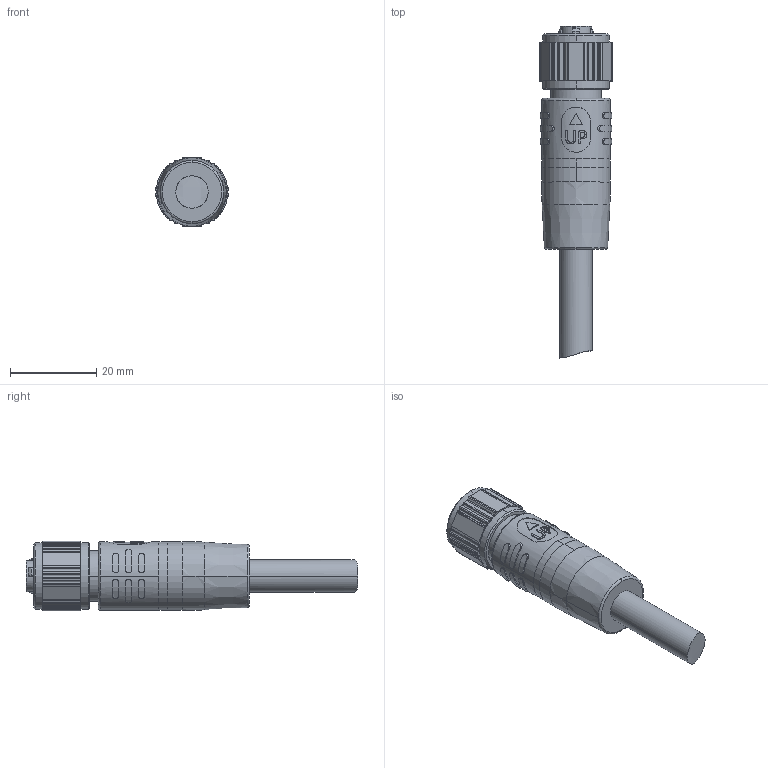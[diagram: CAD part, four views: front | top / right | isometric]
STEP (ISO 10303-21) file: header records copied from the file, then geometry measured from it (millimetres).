
FILE_DESCRIPTION((''),'2;1');
FILE_NAME('PRT0001_1_1','2023-05-29T19:01:28',('MilletLi'),(''),'CREO PARAMETRIC BY PTC INC, 2019352','CREO PARAMETRIC BY PTC INC, 2019352','');
FILE_SCHEMA(('CONFIG_CONTROL_DESIGN','SHAPE_APPEARANCE_LAYERS_GROUPS'));
Products named in the file (1): PRT0001_1_1
Bounding box: 16.92 x 76.99 x 16.05 mm (x, y, z)
Volume: 8865.3 mm3; surface area: 9543.1 mm2
Topology: 2 solids, 12 shells, 930 faces, 2298 edges, 1474 vertices
Faces by surface type: cylinder 375, plane 291, cone 109, extrusion 62, bspline 55, torus 34, revolution 4
Entity records: 56700 total; most frequent: CARTESIAN_POINT 26680, ORIENTED_EDGE 4594, DIRECTION 4379, PRESENTATION_STYLE_ASSIGNMENT 2450, STYLED_ITEM 2318, CURVE_STYLE 2314, EDGE_CURVE 2299, AXIS2_PLACEMENT_3D 1652
